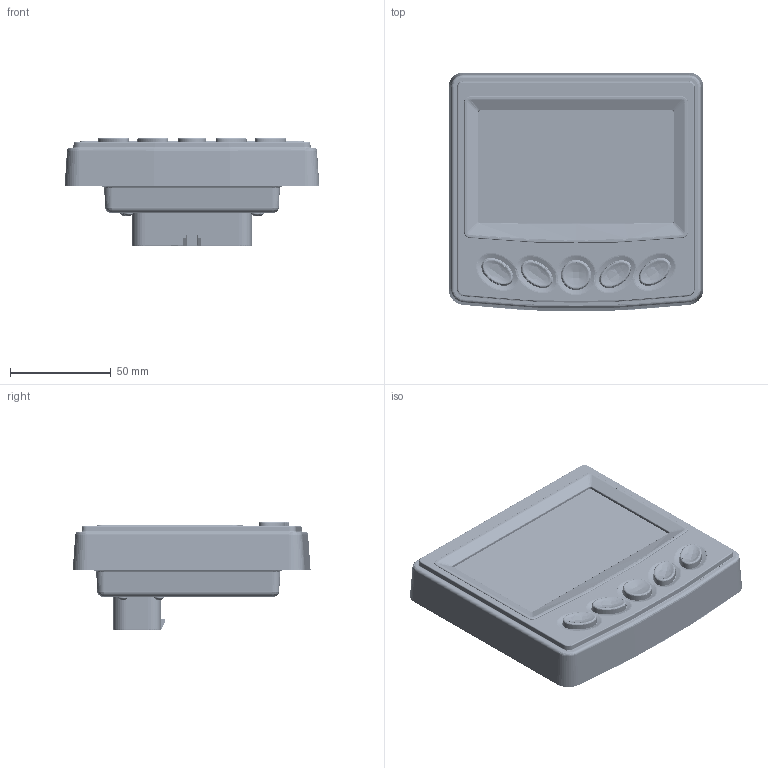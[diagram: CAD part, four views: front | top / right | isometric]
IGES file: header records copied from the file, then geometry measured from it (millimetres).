
Start section: SolidWorks IGES file using analytic representation for surfaces
Global section: file name: Z:\CAD Data\DWGs\In Process\JEREMY\Deutz 450\Simplified 3D model\78400026 PV480.IGS; native system: SolidWorks 2010; preprocessor: SolidWorks 2010; author: jschroeder; date: 110406.144911; units: inch
Bounding box: 126.5 x 118.38 x 53.93 mm (x, y, z)
Surface area: 84474.4 mm2 (no closed solid volume)
Topology: 0 solids, 0 shells, 2522 faces, 30824 edges, 30782 vertices
Faces by surface type: bspline 1754, revolution 768
